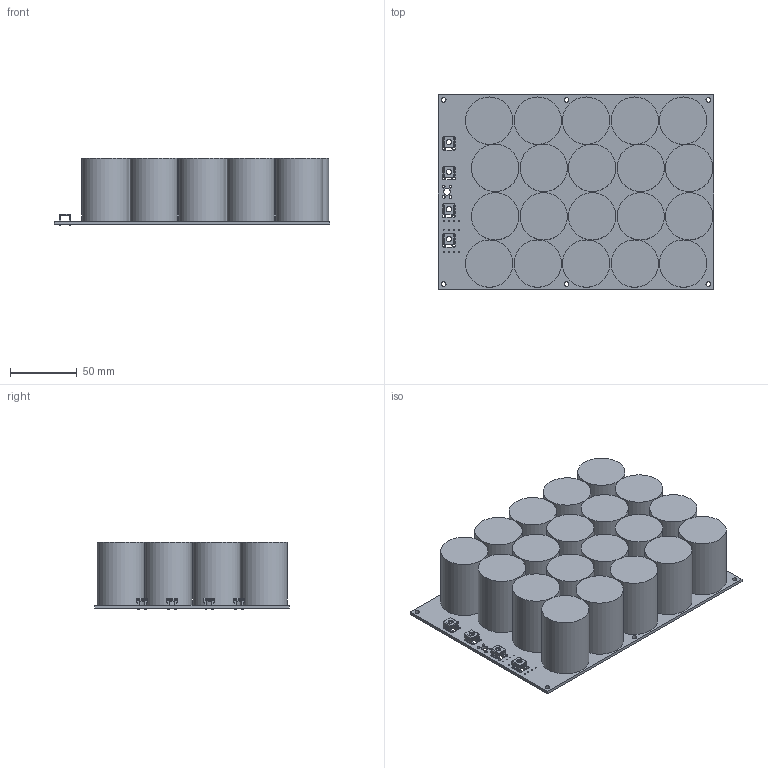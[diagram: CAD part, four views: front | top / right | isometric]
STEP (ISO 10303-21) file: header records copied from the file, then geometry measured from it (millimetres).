
FILE_DESCRIPTION(('Open CASCADE Model'),'2;1');
FILE_NAME('Open CASCADE Shape Model','2019-03-29T13:59:24',('Author'),( 'Open CASCADE'),'Open CASCADE STEP processor 6.8','Open CASCADE 6.8' ,'Unknown');
FILE_SCHEMA(('AUTOMOTIVE_DESIGN { 1 0 10303 214 1 1 1 1 }'));
Length unit declared in the file: millimetre
Products named in the file (52): PCB; BoardCAPS32_revB; X4CAPS32_revB; PCB-1M4; X3CAPS32_revB; X2CAPS32_revB; X1CAPS32_revB; R17CAPS32_revB; User_Library-res2512; User_Library-res2512_pad_2512___; User_Library-res2512_res2512_body___; R18CAPS32_revB; R4CAPS32_revB; R10CAPS32_revB; R12CAPS32_revB; R13CAPS32_revB; R16CAPS32_revB; R7CAPS32_revB; R8CAPS32_revB; R2CAPS32_revB; R19CAPS32_revB; R3CAPS32_revB; R20CAPS32_revB; R5CAPS32_revB; R6CAPS32_revB; R11CAPS32_revB; R14CAPS32_revB; R15CAPS32_revB; R1CAPS32_revB; R9CAPS32_revB; C17CAPS32_revB; 1166931600; Cylinder; C7CAPS32_revB; C12CAPS32_revB; C16CAPS32_revB; C6CAPS32_revB; C11CAPS32_revB; C19CAPS32_revB; C9CAPS32_revB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
Assembly tree (92 placements, depth 4):
  PCB
    BoardCAPS32_revB
    X4CAPS32_revB
      PCB-1M4
    X3CAPS32_revB
      PCB-1M4
    X2CAPS32_revB
      PCB-1M4
    X1CAPS32_revB
      PCB-1M4
    R17CAPS32_revB
      User_Library-res2512
        User_Library-res2512_pad_2512___
        User_Library-res2512_res2512_body___
    R18CAPS32_revB
      User_Library-res2512
        User_Library-res2512_pad_2512___
        User_Library-res2512_res2512_body___
    R4CAPS32_revB
      User_Library-res2512
        User_Library-res2512_pad_2512___
        User_Library-res2512_res2512_body___
    R10CAPS32_revB
      User_Library-res2512
        User_Library-res2512_pad_2512___
        User_Library-res2512_res2512_body___
    R12CAPS32_revB
      User_Library-res2512
        User_Library-res2512_pad_2512___
        User_Library-res2512_res2512_body___
    R13CAPS32_revB
      User_Library-res2512
        User_Library-res2512_pad_2512___
        User_Library-res2512_res2512_body___
    R16CAPS32_revB
      User_Library-res2512
        User_Library-res2512_pad_2512___
        User_Library-res2512_res2512_body___
    R7CAPS32_revB
      User_Library-res2512
        User_Library-res2512_pad_2512___
        User_Library-res2512_res2512_body___
    R8CAPS32_revB
      User_Library-res2512
        User_Library-res2512_pad_2512___
        User_Library-res2512_res2512_body___
    R2CAPS32_revB
      User_Library-res2512
        User_Library-res2512_pad_2512___
        User_Library-res2512_res2512_body___
    R19CAPS32_revB
      User_Library-res2512
        User_Library-res2512_pad_2512___
        User_Library-res2512_res2512_body___
    R3CAPS32_revB
      User_Library-res2512
        User_Library-res2512_pad_2512___
        User_Library-res2512_res2512_body___
    R20CAPS32_revB
      User_Library-res2512
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Bounding box: 205.31 x 145.3 x 50.04 mm (x, y, z)
Volume: 980042.3 mm3; surface area: 207478.6 mm2
Topology: 85 solids, 85 shells, 1441 faces, 3653 edges, 2422 vertices
Faces by surface type: plane 1070, cylinder 271, bspline 100
Full cylindrical faces by diameter (mm): 0.7 x112, 2 x76, 3.45 x6, 5 x1, 35.3 x20
Entity records: 27624 total; most frequent: CARTESIAN_POINT 8288, DIRECTION 3420, ORIENTED_EDGE 1796, PCURVE 1796, DEFINITIONAL_REPRESENTATION 1796, LINE 1766, VECTOR 1766, EDGE_CURVE 898
